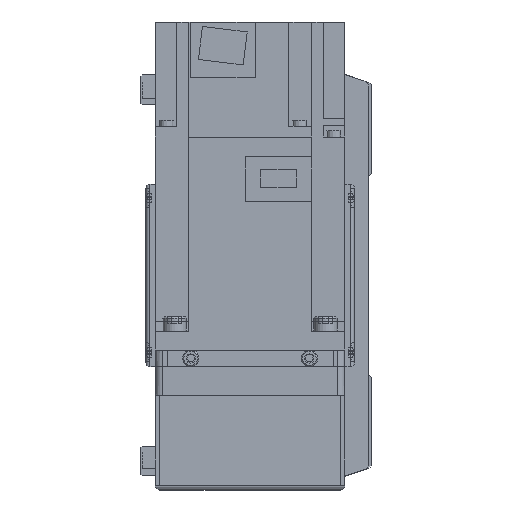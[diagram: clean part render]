
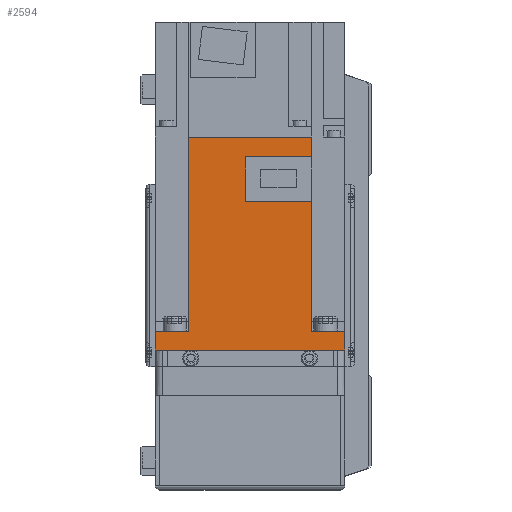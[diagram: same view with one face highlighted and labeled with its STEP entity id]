
A CAD part, left-side view. The second image highlights one B-rep face of the part: STEP entity #2594.
In plain terms, the highlighted planar face has unit normal (-1, 0, 0) as drawn and (1, 0, 0) by its records, which use the part's own axes.
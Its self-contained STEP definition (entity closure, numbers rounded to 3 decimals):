
#2594 = ADVANCED_FACE( '', ( #5843 ), #5844, .F. );
#5843 = FACE_OUTER_BOUND( '', #9709, .T. );
#5844 = PLANE( '', #9710 );
#9709 = EDGE_LOOP( '', ( #16976, #16977, #16978, #16979, #16980, #16981, #16982, #16983, #16984, #16985, #16986, #16987 ) );
#9710 = AXIS2_PLACEMENT_3D( '', #16988, #16989, #16990 );
#16976 = ORIENTED_EDGE( '', *, *, #22832, .F. );
#16977 = ORIENTED_EDGE( '', *, *, #24184, .F. );
#16978 = ORIENTED_EDGE( '', *, *, #24340, .F. );
#16979 = ORIENTED_EDGE( '', *, *, #24341, .T. );
#16980 = ORIENTED_EDGE( '', *, *, #23453, .F. );
#16981 = ORIENTED_EDGE( '', *, *, #22255, .T. );
#16982 = ORIENTED_EDGE( '', *, *, #24342, .T. );
#16983 = ORIENTED_EDGE( '', *, *, #24343, .F. );
#16984 = ORIENTED_EDGE( '', *, *, #22511, .F. );
#16985 = ORIENTED_EDGE( '', *, *, #24185, .F. );
#16986 = ORIENTED_EDGE( '', *, *, #24344, .F. );
#16987 = ORIENTED_EDGE( '', *, *, #24345, .F. );
#16988 = CARTESIAN_POINT( '', ( 40., 89.8, 40. ) );
#16989 = DIRECTION( '', ( -1., 0., 0. ) );
#16990 = DIRECTION( '', ( 0., 0., 1. ) );
#22255 = EDGE_CURVE( '', #26738, #26736, #26739, .T. );
#22511 = EDGE_CURVE( '', #27167, #27168, #27169, .T. );
#22832 = EDGE_CURVE( '', #27704, #27706, #27707, .T. );
#23453 = EDGE_CURVE( '', #26738, #28700, #28701, .T. );
#24184 = EDGE_CURVE( '', #29753, #27704, #29755, .T. );
#24185 = EDGE_CURVE( '', #28133, #27167, #29756, .T. );
#24340 = EDGE_CURVE( '', #29965, #29753, #29966, .T. );
#24341 = EDGE_CURVE( '', #29965, #28700, #29967, .T. );
#24342 = EDGE_CURVE( '', #26736, #29968, #29969, .T. );
#24343 = EDGE_CURVE( '', #27168, #29968, #29970, .T. );
#24344 = EDGE_CURVE( '', #29971, #28133, #29972, .T. );
#24345 = EDGE_CURVE( '', #27706, #29971, #29973, .T. );
#26736 = VERTEX_POINT( '', #33406 );
#26738 = VERTEX_POINT( '', #33409 );
#26739 = LINE( '', #33410, #33411 );
#27167 = VERTEX_POINT( '', #34016 );
#27168 = VERTEX_POINT( '', #34017 );
#27169 = LINE( '', #34018, #34019 );
#27704 = VERTEX_POINT( '', #34724 );
#27706 = VERTEX_POINT( '', #34727 );
#27707 = LINE( '', #34728, #34729 );
#28133 = VERTEX_POINT( '', #35645 );
#28700 = VERTEX_POINT( '', #36427 );
#28701 = LINE( '', #36428, #36429 );
#29753 = VERTEX_POINT( '', #38195 );
#29755 = LINE( '', #38198, #38199 );
#29756 = LINE( '', #38200, #38201 );
#29965 = VERTEX_POINT( '', #38596 );
#29966 = LINE( '', #38597, #38598 );
#29967 = LINE( '', #38599, #38600 );
#29968 = VERTEX_POINT( '', #38601 );
#29969 = LINE( '', #38602, #38603 );
#29970 = LINE( '', #38604, #38605 );
#29971 = VERTEX_POINT( '', #38606 );
#29972 = LINE( '', #38607, #38608 );
#29973 = LINE( '', #38609, #38610 );
#33406 = CARTESIAN_POINT( '', ( 40., 0., 40. ) );
#33409 = CARTESIAN_POINT( '', ( 40., 8., 40. ) );
#33410 = CARTESIAN_POINT( '', ( 40., 89.8, 40. ) );
#33411 = VECTOR( '', #41453, 1000. );
#34016 = CARTESIAN_POINT( '', ( 40., 8., -25.95 ) );
#34017 = CARTESIAN_POINT( '', ( 40., 8., -40. ) );
#34018 = CARTESIAN_POINT( '', ( 40., 8., 40. ) );
#34019 = VECTOR( '', #41788, 1000. );
#34724 = CARTESIAN_POINT( '', ( 40., 81.4, -25.95 ) );
#34727 = CARTESIAN_POINT( '', ( 40., 81.4, 1.8 ) );
#34728 = CARTESIAN_POINT( '', ( 40., 81.4, -26. ) );
#34729 = VECTOR( '', #42235, 1000. );
#35645 = CARTESIAN_POINT( '', ( 40., 62.8, -25.95 ) );
#36427 = CARTESIAN_POINT( '', ( 40., 8., 25.95 ) );
#36428 = CARTESIAN_POINT( '', ( 40., 8., 40. ) );
#36429 = VECTOR( '', #43030, 1000. );
#38195 = CARTESIAN_POINT( '', ( 40., 89.8, -25.95 ) );
#38198 = CARTESIAN_POINT( '', ( 40., 158., -25.95 ) );
#38199 = VECTOR( '', #43876, 1000. );
#38200 = CARTESIAN_POINT( '', ( 40., 158., -25.95 ) );
#38201 = VECTOR( '', #43877, 1000. );
#38596 = CARTESIAN_POINT( '', ( 40., 89.8, 25.95 ) );
#38597 = CARTESIAN_POINT( '', ( 40., 89.8, 40. ) );
#38598 = VECTOR( '', #44044, 1000. );
#38599 = CARTESIAN_POINT( '', ( 40., 158., 25.95 ) );
#38600 = VECTOR( '', #44045, 1000. );
#38601 = CARTESIAN_POINT( '', ( 40., 0., -40. ) );
#38602 = CARTESIAN_POINT( '', ( 40., 0., 40. ) );
#38603 = VECTOR( '', #44046, 1000. );
#38604 = CARTESIAN_POINT( '', ( 40., 89.8, -40. ) );
#38605 = VECTOR( '', #44047, 1000. );
#38606 = CARTESIAN_POINT( '', ( 40., 62.8, 1.8 ) );
#38607 = CARTESIAN_POINT( '', ( 40., 62.8, 1.8 ) );
#38608 = VECTOR( '', #44048, 1000. );
#38609 = CARTESIAN_POINT( '', ( 40., 81.4, 1.8 ) );
#38610 = VECTOR( '', #44049, 1000. );
#41453 = DIRECTION( '', ( 0., -1., 0. ) );
#41788 = DIRECTION( '', ( 0., 0., -1. ) );
#42235 = DIRECTION( '', ( 0., 0., 1. ) );
#43030 = DIRECTION( '', ( 0., 0., -1. ) );
#43876 = DIRECTION( '', ( 0., -1., 0. ) );
#43877 = DIRECTION( '', ( 0., -1., 0. ) );
#44044 = DIRECTION( '', ( 0., 0., -1. ) );
#44045 = DIRECTION( '', ( 0., -1., 0. ) );
#44046 = DIRECTION( '', ( 0., 0., -1. ) );
#44047 = DIRECTION( '', ( 0., -1., 0. ) );
#44048 = DIRECTION( '', ( 0., 0., -1. ) );
#44049 = DIRECTION( '', ( 0., -1., 0. ) );
